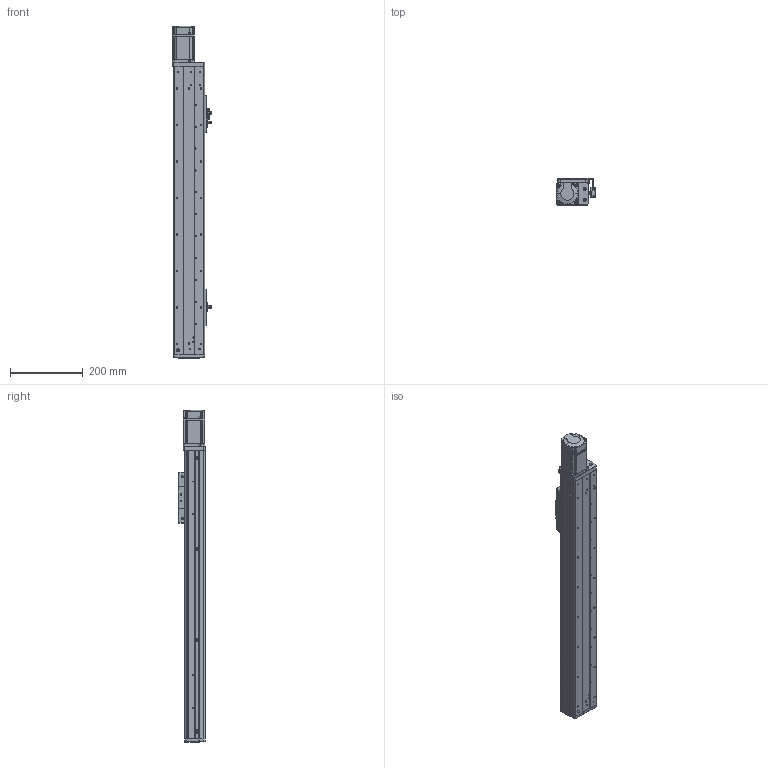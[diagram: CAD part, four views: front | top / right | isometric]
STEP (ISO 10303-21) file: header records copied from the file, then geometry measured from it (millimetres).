
FILE_DESCRIPTION (( 'STEP AP203' ), '1' );
FILE_NAME ('RY80F-L1610-300-MK.SLDASM_550.step', '2021-03-02T03:18:56', ( '盈信电脑' ), ( '东莞市道滘镇水果街19号' ), 'SwSTEP 2.0', 'SolidWorks 2012', '' );
FILE_SCHEMA (( 'CONFIG_CONTROL_DESIGN' ));
Length unit declared in the file: millimetre
Products named in the file (16): RY80F-L1610-300-MK.SLDASM_550; 覜茼ん672; 侂狟200W萇儂; RY80俋离覜茼え; 蚥薯蝶紫輸; 滅袉蝶18-24; 1; 672嫖萇羲壽假蚾釱; RY80F-詩湍揤踡輸; RY80F-佪裝眻蟀ヶ裔啣(200W PCD70 M4); RY80F-綴裔啣(臏璃ㄘ; RY80F-300-祥凄詩湍-MK_550; RY80F-300丝杆直连型材盖板_550; RY80F-丝杆直连型材底座_550; RY80F-丝杆铝滑块(16丝杆）; RY80F-滅鳥裔啣
Assembly tree (21 placements, depth 3):
  RY80F-L1610-300-MK.SLDASM_550
    RY80F-丝杆直连型材底座_550
    RY80F-300丝杆直连型材盖板_550  x2
    RY80F-丝杆铝滑块(16丝杆）
    RY80F-滅鳥裔啣
    RY80F-300-祥凄詩湍-MK_550
    RY80F-佪裝眻蟀ヶ裔啣(200W PCD70 M4)
    RY80F-詩湍揤踡輸  x2
    RY80F-綴裔啣(臏璃ㄘ
    672嫖萇羲壽假蚾釱  x2
    蚥薯蝶紫輸
    滅袉蝶18-24  x2
    侂狟200W萇儂
      1
    RY80俋离覜茼え
    覜茼ん672  x3
Bounding box: 107.2 x 75 x 910 mm (x, y, z)
Volume: 1794813.6 mm3; surface area: 695330 mm2
Topology: 20 solids, 20 shells, 1706 faces, 4713 edges, 3074 vertices
Faces by surface type: plane 805, cylinder 774, cone 109, bspline 18
Entity records: 49169 total; most frequent: CARTESIAN_POINT 10591, ORIENTED_EDGE 7698, DIRECTION 7655, EDGE_CURVE 3849, AXIS2_PLACEMENT_3D 2688, VERTEX_POINT 2526, LINE 2279, VECTOR 2279
